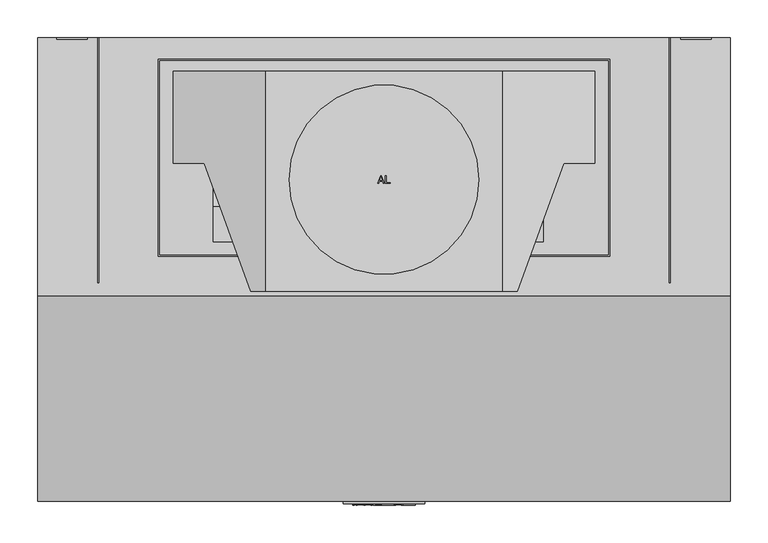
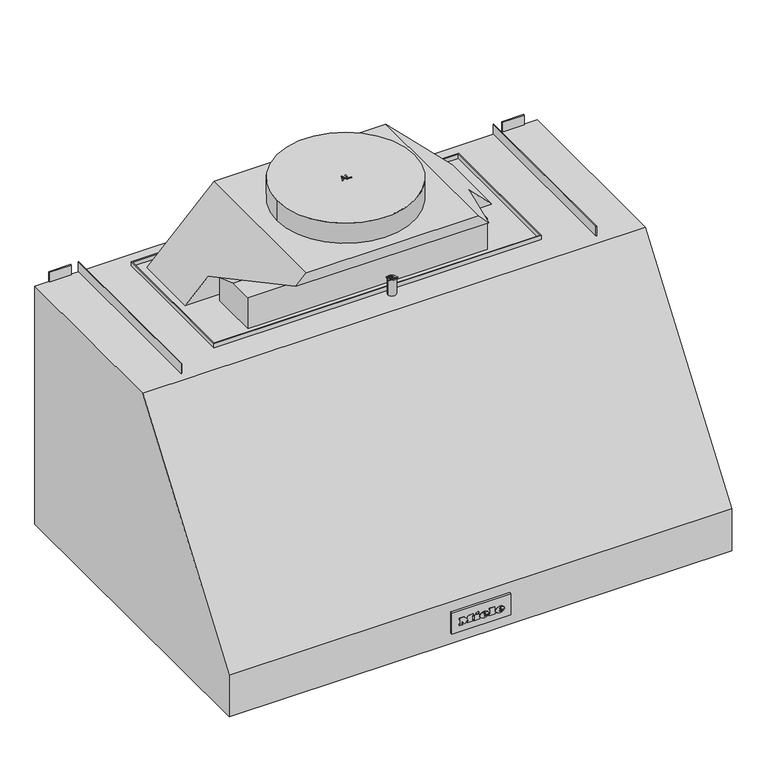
"""IFC4 building model written with IfcOpenShell, lengths in millimetres: proxy geometry, 11898170_USA_DAR1230-3_EDST : 28123051_USA_11898170_DAR1230-3_EDST."""

from ifc_helpers import new_model, si_unit, point, frame, frame_2d, origin, origin_with_axes, place, context, project, spatial, polyline, circle_curve, ellipse_curve, trimmed, segment, composite_curve, outline, extrude, faceted_brep, source, transform, mapped, element, save
from ifc_brep_helpers import plane_surface, cylinder_surface, revolved_surface, extruded_surface, advanced_brep


def specialty_equipment_fada4b7b(model_context):
    return source(origin(), model_context, "Body", "SolidModel", [
        extrude(outline(composite_curve([segment(trimmed(circle_curve(frame_2d((0.0, -510.0)), 27.5), [point((27.5, -510.0))], [point((-27.5, -510.0))], False, "CARTESIAN"), True, "CONTINUOUS"), segment(trimmed(circle_curve(frame_2d((0.0, -510.0)), 27.5), [point((-27.5, -510.0))], [point((27.5, -510.0))], False, "CARTESIAN"), True, "CONTINUOUS")], self_intersect=False)), origin_with_axes(), (0.0, 0.0, 1.0), 2.0),
        extrude(outline(composite_curve([segment(trimmed(circle_curve(frame_2d((0.0, -510.0)), 28.5), [point((28.5, -510.0))], [point((-28.5, -510.0))], False, "CARTESIAN"), True, "CONTINUOUS"), segment(trimmed(circle_curve(frame_2d((0.0, -510.0)), 28.5), [point((-28.5, -510.0))], [point((28.5, -510.0))], False, "CARTESIAN"), True, "CONTINUOUS")], self_intersect=False), holes=[composite_curve([segment(trimmed(circle_curve(frame_2d((0.0, -510.0)), 27.5), [point((27.5, -510.0))], [point((-27.5, -510.0))], True, "CARTESIAN"), True, "CONTINUOUS"), segment(trimmed(circle_curve(frame_2d((0.0, -510.0)), 27.5), [point((-27.5, -510.0))], [point((27.5, -510.0))], True, "CARTESIAN"), True, "CONTINUOUS")], self_intersect=False)]), origin_with_axes(), (0.0, 0.0, 1.0), 2.0),
        extrude(outline(composite_curve([segment(trimmed(circle_curve(frame_2d((-297.5, -510.0)), 27.5), [point((-270.0, -510.0))], [point((-325.0, -510.0))], False, "CARTESIAN"), True, "CONTINUOUS"), segment(trimmed(circle_curve(frame_2d((-297.5, -510.0)), 27.5), [point((-325.0, -510.0))], [point((-270.0, -510.0))], False, "CARTESIAN"), True, "CONTINUOUS")], self_intersect=False)), origin_with_axes(), (0.0, 0.0, 1.0), 2.0),
        extrude(outline(composite_curve([segment(trimmed(circle_curve(frame_2d((297.5, -510.0)), 27.5), [point((325.0, -510.0))], [point((270.0, -510.0))], False, "CARTESIAN"), True, "CONTINUOUS"), segment(trimmed(circle_curve(frame_2d((297.5, -510.0)), 27.5), [point((270.0, -510.0))], [point((325.0, -510.0))], False, "CARTESIAN"), True, "CONTINUOUS")], self_intersect=False)), origin_with_axes(), (0.0, 0.0, 1.0), 2.0),
        extrude(outline(composite_curve([segment(trimmed(circle_curve(frame_2d((-297.5, -510.0)), 28.5), [point((-269.0, -510.0))], [point((-326.0, -510.0))], False, "CARTESIAN"), True, "CONTINUOUS"), segment(trimmed(circle_curve(frame_2d((-297.5, -510.0)), 28.5), [point((-326.0, -510.0))], [point((-269.0, -510.0))], False, "CARTESIAN"), True, "CONTINUOUS")], self_intersect=False), holes=[composite_curve([segment(trimmed(circle_curve(frame_2d((-297.5, -510.0)), 27.5), [point((-270.0, -510.0))], [point((-325.0, -510.0))], True, "CARTESIAN"), True, "CONTINUOUS"), segment(trimmed(circle_curve(frame_2d((-297.5, -510.0)), 27.5), [point((-325.0, -510.0))], [point((-270.0, -510.0))], True, "CARTESIAN"), True, "CONTINUOUS")], self_intersect=False)]), origin_with_axes(), (0.0, 0.0, 1.0), 2.0),
        extrude(outline(composite_curve([segment(trimmed(circle_curve(frame_2d((297.5, -510.0)), 28.5), [point((326.0, -510.0))], [point((269.0, -510.0))], False, "CARTESIAN"), True, "CONTINUOUS"), segment(trimmed(circle_curve(frame_2d((297.5, -510.0)), 28.5), [point((269.0, -510.0))], [point((326.0, -510.0))], False, "CARTESIAN"), True, "CONTINUOUS")], self_intersect=False), holes=[composite_curve([segment(trimmed(circle_curve(frame_2d((297.5, -510.0)), 27.5), [point((325.0, -510.0))], [point((270.0, -510.0))], True, "CARTESIAN"), True, "CONTINUOUS"), segment(trimmed(circle_curve(frame_2d((297.5, -510.0)), 27.5), [point((270.0, -510.0))], [point((325.0, -510.0))], True, "CARTESIAN"), True, "CONTINUOUS")], self_intersect=False)]), origin_with_axes(), (0.0, 0.0, 1.0), 2.0),
        extrude(outline(polyline([(-37.5, 0.0), (0.0, 0.0), (0.0, -344.0), (-37.5, -344.0), (-37.5, 0.0)])), frame((162.0, -320.2688445, 250.4179055), z_axis=(0.0, 0.6427876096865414, 0.7660444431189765), x_axis=(-1.0, 0.0, 0.0)), (0.0, 0.0, 1.0), 25.0),
        extrude(outline(polyline([(-87.0, 0.0), (-49.5, 0.0), (-49.5, -344.0), (-87.0, -344.0), (-87.0, 0.0)])), frame((162.0, -320.2688445, 250.4179055), z_axis=(0.0, 0.6427876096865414, 0.7660444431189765), x_axis=(-1.0, 0.0, 0.0)), (0.0, 0.0, 1.0), 25.0),
        extrude(outline(polyline([(-136.5, 0.0), (-99.0, 0.0), (-99.0, -344.0), (-136.5, -344.0), (-136.5, 0.0)])), frame((162.0, -320.2688445, 250.4179055), z_axis=(0.0, 0.6427876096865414, 0.7660444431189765), x_axis=(-1.0, 0.0, 0.0)), (0.0, 0.0, 1.0), 25.0),
        extrude(outline(polyline([(-186.0, 0.0), (-148.5, 0.0), (-148.5, -344.0), (-186.0, -344.0), (-186.0, 0.0)])), frame((162.0, -320.2688445, 250.4179055), z_axis=(0.0, 0.6427876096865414, 0.7660444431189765), x_axis=(-1.0, 0.0, 0.0)), (0.0, 0.0, 1.0), 25.0),
        extrude(outline(polyline([(0.0, 0.0), (37.5, 0.0), (37.5, -344.0), (0.0, -344.0), (0.0, 0.0)])), frame((-350.0, -56.7495561, 29.2989677), z_axis=(0.0, 0.6427876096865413, 0.7660444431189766), x_axis=(1.0, 0.0, 0.0)), (0.0, 0.0, 1.0), 25.0),
        extrude(outline(polyline([(87.0, -344.0), (49.5, -344.0), (49.5, 0.0), (87.0, 0.0), (87.0, -344.0)])), frame((-350.0, -56.7495561, 29.2989677), z_axis=(0.0, 0.6427876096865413, 0.7660444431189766), x_axis=(1.0, 0.0, 0.0)), (0.0, 0.0, 1.0), 25.0),
        extrude(outline(polyline([(136.5, -344.0), (99.0, -344.0), (99.0, 0.0), (136.5, 0.0), (136.5, -344.0)])), frame((-350.0, -56.7495561, 29.2989677), z_axis=(0.0, 0.6427876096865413, 0.7660444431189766), x_axis=(1.0, 0.0, 0.0)), (0.0, 0.0, 1.0), 25.0),
        extrude(outline(polyline([(186.0, -344.0), (148.5, -344.0), (148.5, 0.0), (186.0, 0.0), (186.0, -344.0)])), frame((-350.0, -56.7495561, 29.2989677), z_axis=(0.0, 0.6427876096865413, 0.7660444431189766), x_axis=(1.0, 0.0, 0.0)), (0.0, 0.0, 1.0), 25.0),
        extrude(outline(polyline([(256.0, 0.0), (293.5, 0.0), (293.5, -344.0), (256.0, -344.0), (256.0, 0.0)])), frame((-350.0, -56.7495561, 29.2989677), z_axis=(0.0, 0.6427876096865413, 0.7660444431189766), x_axis=(1.0, 0.0, 0.0)), (0.0, 0.0, 1.0), 25.0),
        extrude(outline(polyline([(343.0, -344.0), (305.5, -344.0), (305.5, 0.0), (343.0, 0.0), (343.0, -344.0)])), frame((-350.0, -56.7495561, 29.2989677), z_axis=(0.0, 0.6427876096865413, 0.7660444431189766), x_axis=(1.0, 0.0, 0.0)), (0.0, 0.0, 1.0), 25.0),
        extrude(outline(polyline([(392.5, -344.0), (355.0, -344.0), (355.0, 0.0), (392.5, 0.0), (392.5, -344.0)])), frame((-350.0, -56.7495561, 29.2989677), z_axis=(0.0, 0.6427876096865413, 0.7660444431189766), x_axis=(1.0, 0.0, 0.0)), (0.0, 0.0, 1.0), 25.0),
        extrude(outline(polyline([(442.0, -344.0), (404.5, -344.0), (404.5, 0.0), (442.0, 0.0), (442.0, -344.0)])), frame((-350.0, -56.7495561, 29.2989677), z_axis=(0.0, 0.6427876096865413, 0.7660444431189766), x_axis=(1.0, 0.0, 0.0)), (0.0, 0.0, 1.0), 25.0),
        extrude(outline(polyline([(256.0, 0.0), (256.0, -380.0), (0.0, -380.0), (0.0, 0.0), (256.0, 0.0)]), holes=[polyline([(238.0, -360.0), (238.0, -16.0), (18.0, -16.0), (18.0, -360.0), (238.0, -360.0)])]), frame((127.0, -44.492845, 19.014366), z_axis=(0.0, 0.6427876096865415, 0.7660444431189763), x_axis=(1.0, 0.0, 0.0)), (0.0, 0.0, 1.0), 25.0),
        extrude(outline(polyline([(0.0, -380.0), (0.0, 0.0), (256.0, 0.0), (256.0, -380.0), (0.0, -380.0)]), holes=[polyline([(18.0, -20.0), (18.0, -364.0000001), (238.0, -364.0000001), (238.0, -20.0), (18.0, -20.0)])]), frame((127.0, -335.5897334, 263.2736577), z_axis=(0.0, 0.6427876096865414, 0.7660444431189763), x_axis=(-1.0, 0.0, 0.0)), (0.0, 0.0, 1.0), 25.0),
        extrude(outline(polyline([(256.0, 0.0), (256.0, -380.0), (0.0, -380.0), (0.0, 0.0), (256.0, 0.0)]), holes=[polyline([(238.0, -359.904685), (238.0, -16.0), (18.0, -16.0), (18.0, -359.904685), (238.0, -359.904685)])]), frame((-385.0, -44.492845, 19.014366), z_axis=(0.0, 0.6427876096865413, 0.7660444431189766), x_axis=(1.0, 0.0, 0.0)), (0.0, 0.0, 1.0), 25.0),
        extrude(outline(polyline([(0.0, -32.0), (0.0, 0.0), (771.0, 0.0), (771.0, -32.0), (0.0, -32.0)])), frame((385.5, -54.2049091, 24.5529408), z_axis=(0.0, 0.6427876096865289, 0.7660444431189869), x_axis=(-1.0, 0.0, 0.0)), (0.0, 0.0, 1.0), 2.0),
        extrude(outline(composite_curve([segment(polyline([(-611.0, 60.5), (-611.0, 19.5), (-614.4897588, 19.5)]), True, "CONTINUOUS"), segment(trimmed(circle_curve(frame_2d((-407.0, 40.0)), 208.5), [point((-614.4897588, 19.5))], [point((-614.4897588, 60.5))], False, "CARTESIAN"), True, "CONTINUOUS"), segment(polyline([(-614.4897588, 60.5), (-611.0, 60.5)]), True, "CONTINUOUS")], self_intersect=False)), frame((-53.5, 0.0, 0.0), z_axis=(1.0, 0.0, 0.0), x_axis=(0.0, 1.0, 0.0)), (0.0, 0.0, 1.0), 107.0),
        extrude(outline(polyline([(-4.5372377, -181.9543211), (-3.4679056, -181.9543211), (0.5443291, -192.0074933), (-0.78117, -192.0074933), (-1.9464171, -188.8644809), (-6.0741019, -188.8644809), (-7.2153963, -192.0001615), (-8.5495657, -192.0001615), (-4.5372377, -181.9543211)]), holes=[polyline([(-5.6034113, -187.6023847), (-2.3954067, -187.6023847), (-4.0065067, -183.2149252), (-5.6034113, -187.6023847)])]), frame((0.0, 0.0, 619.0), z_axis=(0.0, 0.0, 1.0), x_axis=(1.0, 0.0, 0.0)), (0.0, 0.0, 1.0), 1.0),
        extrude(outline(polyline([(1.8811446, -192.000493), (1.8811446, -181.9526593), (3.1591519, -181.9526593), (3.1591519, -190.7381821), (8.1591519, -190.7381821), (8.1591519, -192.000493), (1.8811446, -192.000493)])), frame((0.0, 0.0, 619.0), z_axis=(0.0, 0.0, 1.0), x_axis=(1.0, 0.0, 0.0)), (0.0, 0.0, 1.0), 1.0),
        extrude(outline(polyline([(12.618401, -292.9519593), (19.854777, -292.9519593), (19.854777, -294.2111209), (13.8792364, -294.2111209), (13.8792364, -297.1924894), (19.5282155, -297.1924894), (19.5282155, -298.4490469), (13.881595, -298.4490469), (13.881595, -301.7405445), (20.0030995, -301.7405445), (20.0030995, -303.0025662), (12.618401, -303.0025662), (12.618401, -292.9519593)])), frame((0.0, 0.0, 487.0), z_axis=(0.0, 0.0, 1.0), x_axis=(1.0, 0.0, 0.0)), (0.0, 0.0, 1.0), 1.0),
        extrude(outline(polyline([(21.8808706, -303.001043), (21.8808706, -292.9502196), (23.1543386, -292.9502196), (23.1543386, -301.7343453), (28.1543386, -301.7343453), (28.1543386, -303.001043), (21.8808706, -303.001043)])), frame((0.0, 0.0, 487.0), z_axis=(0.0, 0.0, 1.0), x_axis=(1.0, 0.0, 0.0)), (0.0, 0.0, 1.0), 1.0),
        extrude(outline(composite_curve([segment(trimmed(circle_curve(frame_2d((20.0, -298.0)), 7.5), [point((27.5, -298.0))], [point((12.5, -298.0))], False, "CARTESIAN"), True, "CONTINUOUS"), segment(trimmed(circle_curve(frame_2d((20.0, -298.0)), 7.5), [point((12.5, -298.0))], [point((27.5, -298.0))], False, "CARTESIAN"), True, "CONTINUOUS")], self_intersect=False)), frame((0.0, 0.0, 457.0), z_axis=(0.0, 0.0, 1.0), x_axis=(1.0, 0.0, 0.0)), (0.0, 0.0, 1.0), 30.0),
        advanced_brep(
        [(456.5, -340.0, 457.0), (456.5, -611.0, 80.0), (456.5, -611.0, 0.0), (456.5, 0.0, 0.0), (456.5, 0.0, 457.0), (-456.5, -340.0, 457.0), (-456.5, 0.0, 457.0), (-456.5, 0.0, 0.0), (-456.5, -611.0, 0.0), (-456.5, -611.0, 80.0), (395.5, -440.0, 0.0), (395.5, -28.0, 0.0), (-395.5, -28.0, 0.0), (-395.5, -440.0, 0.0), (217.0, -554.0, 0.0), (217.0, -466.0, 0.0), (81.0, -466.0, 0.0), (81.0, -554.0, 0.0), (-268.5, -510.0, 0.0), (-326.5, -510.0, 0.0), (326.5, -510.0, 0.0), (268.5, -510.0, 0.0), (29.0, -510.0, 0.0), (-29.0, -510.0, 0.0), (395.5, -440.0, 176.0), (395.5, -346.5798495, 321.3202342), (395.5, -28.0, 54.0), (-395.5, -28.0, 54.0), (-395.5, -346.5798495, 321.3202342), (-395.5, -440.0, 176.0), (217.0, -528.8270111, 30.0), (217.0, -521.4256258, 32.0), (81.0, -528.8270111, 30.0), (81.0, -521.4256258, 32.0), (-268.5, -510.0, 5.0), (-326.5, -510.0, 5.0), (326.5, -510.0, 5.0), (268.5, -510.0, 5.0), (29.0, -510.0, 5.0), (-29.0, -510.0, 5.0)],
        [
            (0, 1),
            (1, 2),
            (2, 3),
            (3, 4),
            (4, 0),
            (5, 6),
            (6, 7),
            (7, 8),
            (8, 9),
            (9, 5),
            (1, 9),
            (8, 2),
            (7, 3),
            (10, 11),
            (11, 12),
            (12, 13),
            (13, 10),
            (14, 15),
            (15, 16),
            (16, 17),
            (17, 14),
            (18, 19, circle_curve(frame((-297.5, -510.0, 0.0), z_axis=(0.0, 0.0, 1.0), x_axis=(-1.0, 0.0, 0.0)), 29.0)),
            (19, 18, circle_curve(frame((-297.5, -510.0, 0.0), z_axis=(0.0, 0.0, 1.0), x_axis=(-1.0, 0.0, 0.0)), 29.0)),
            (20, 21, circle_curve(frame((297.5, -510.0, 0.0), z_axis=(0.0, 0.0, 1.0), x_axis=(-1.0, 0.0, 0.0)), 29.0)),
            (21, 20, circle_curve(frame((297.5, -510.0, 0.0), z_axis=(0.0, 0.0, 1.0), x_axis=(-1.0, 0.0, 0.0)), 29.0)),
            (22, 23, circle_curve(frame((0.0, -510.0, 0.0), z_axis=(0.0, 0.0, 1.0), x_axis=(-1.0, 0.0, 0.0)), 29.0)),
            (23, 22, circle_curve(frame((0.0, -510.0, 0.0), z_axis=(0.0, 0.0, 1.0), x_axis=(-1.0, 0.0, 0.0)), 29.0)),
            (6, 4),
            (5, 0),
            (10, 24),
            (24, 25),
            (25, 26),
            (26, 11),
            (12, 27),
            (27, 28),
            (28, 29),
            (29, 13),
            (26, 27),
            (30, 31, circle_curve(frame((217.0, -523.6917155, 25.6909754), z_axis=(-1.0, 0.0, 0.0), x_axis=(0.0, -1.0, 0.0)), 6.7036523)),
            (31, 15),
            (14, 30),
            (32, 17),
            (16, 33),
            (33, 32, circle_curve(frame((81.0, -523.6917155, 25.6909754), z_axis=(1.0, 0.0, 0.0), x_axis=(0.0, -1.0, 0.0)), 6.7036523)),
            (32, 30),
            (31, 33),
            (24, 29),
            (28, 25),
            (34, 35, circle_curve(frame((-297.5, -510.0, 5.0), z_axis=(0.0, 0.0, -1.0), x_axis=(-1.0, 0.0, 0.0)), 29.0)),
            (35, 34, circle_curve(frame((-297.5, -510.0, 5.0), z_axis=(0.0, 0.0, -1.0), x_axis=(-1.0, 0.0, 0.0)), 29.0)),
            (36, 37, circle_curve(frame((297.5, -510.0, 5.0), z_axis=(0.0, 0.0, -1.0), x_axis=(-1.0, 0.0, 0.0)), 29.0)),
            (37, 36, circle_curve(frame((297.5, -510.0, 5.0), z_axis=(0.0, 0.0, -1.0), x_axis=(-1.0, 0.0, 0.0)), 29.0)),
            (35, 19),
            (18, 34),
            (37, 21),
            (20, 36),
            (38, 39, circle_curve(frame((0.0, -510.0, 5.0), z_axis=(0.0, 0.0, -1.0), x_axis=(-1.0, 0.0, 0.0)), 29.0)),
            (39, 38, circle_curve(frame((0.0, -510.0, 5.0), z_axis=(0.0, 0.0, -1.0), x_axis=(-1.0, 0.0, 0.0)), 29.0)),
            (39, 23),
            (22, 38),
        ],
        [
            plane_surface(frame((456.5, -611.0, 80.0), z_axis=(1.0, 0.0, 0.0), x_axis=(0.0, -0.5836804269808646, -0.8119834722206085))),
            plane_surface(frame((-456.5, -611.0, 80.0), z_axis=(-1.0, 0.0, 0.0), x_axis=(0.0, 0.5836804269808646, 0.8119834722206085))),
            plane_surface(frame((456.5, -611.0, 80.0), z_axis=(0.0, -1.0, 0.0), x_axis=(-1.0, 0.0, 0.0))),
            plane_surface(frame((456.5, -611.0, 0.0), z_axis=(0.0, 0.0, -1.0), x_axis=(-1.0, 0.0, 0.0))),
            plane_surface(frame((456.5, 0.0, 0.0), z_axis=(0.0, 1.0, 0.0), x_axis=(-1.0, 0.0, 0.0))),
            plane_surface(frame((456.5, 0.0, 457.0), z_axis=(0.0, 0.0, 1.0), x_axis=(-1.0, 0.0, 0.0))),
            plane_surface(frame((456.5, -340.0, 457.0), z_axis=(0.0, -0.8119834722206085, 0.5836804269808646), x_axis=(-1.0, 0.0, 0.0))),
            plane_surface(frame((395.5, -440.0, 0.0), z_axis=(-1.0, 0.0, 0.0), x_axis=(0.0, 1.0, 0.0))),
            plane_surface(frame((-395.5, -440.0, 0.0), z_axis=(1.0, 0.0, 0.0), x_axis=(0.0, -1.0, 0.0))),
            plane_surface(frame((-395.5, -28.0, 54.0), z_axis=(0.0, -1.0, 0.0), x_axis=(1.0, 0.0, 0.0))),
            plane_surface(frame((217.0, -530.3953678, 25.6909754), z_axis=(-1.0, 0.0, 0.0), x_axis=(0.0, 0.0, -1.0))),
            plane_surface(frame((81.0, -530.3953678, 25.6909754), z_axis=(1.0, 0.0, 0.0), x_axis=(0.0, 0.0, 1.0))),
            plane_surface(frame((81.0, -554.0, 0.0), z_axis=(0.0, 0.7660444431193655, -0.6427876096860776), x_axis=(1.0, 0.0, 0.0))),
            plane_surface(frame((81.0, -521.4256258, 32.0), z_axis=(0.0, -0.5000000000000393, -0.8660254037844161), x_axis=(1.0, 0.0, 0.0))),
            plane_surface(frame((-395.5, -440.0, 176.0), z_axis=(0.0, 0.8411784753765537, -0.5407575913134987), x_axis=(1.0, 0.0, 0.0))),
            plane_surface(frame((-395.5, -440.0, 0.0), z_axis=(0.0, 1.0, 0.0), x_axis=(1.0, 0.0, 0.0))),
            revolved_surface(polyline([(81.0, -530.3953678, 25.6909754), (217.0, -530.3953678, 25.6909754)]), (217.0, -523.6917155, 25.6909754), (-1.0, 0.0, 0.0)),
            plane_surface(frame((-395.5, -346.5798495, 321.3202342), z_axis=(0.0, -0.642787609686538, -0.7660444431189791), x_axis=(1.0, 0.0, 0.0))),
            plane_surface(frame((-326.5, -510.0, 5.0), z_axis=(0.0, 0.0, -1.0), x_axis=(0.0, -1.0, 0.0))),
            revolved_surface(polyline([(-326.5, -510.0, 5.0), (-326.5, -510.0, 0.0)]), (-297.5, -510.0, 0.0), (0.0, 0.0, 1.0)),
            revolved_surface(polyline([(268.5, -510.0, 5.0), (268.5, -510.0, 0.0)]), (297.5, -510.0, 0.0), (0.0, 0.0, 1.0)),
            plane_surface(frame((-29.0, -510.0, 5.0), z_axis=(0.0, 0.0, -1.0), x_axis=(0.0, -1.0, 0.0))),
            revolved_surface(polyline([(-29.0, -510.0, 5.0), (-29.0, -510.0, 0.0)]), (0.0, -510.0, 0.0), (0.0, 0.0, 1.0)),
        ],
        [
            (0, [[1, 2, 3, 4, 5]]),
            (1, [[6, 7, 8, 9, 10]]),
            (2, [[-2, 11, -9, 12]]),
            (3, [[-3, -12, -8, 13], [14, 15, 16, 17], [18, 19, 20, 21], [22, 23], [24, 25], [26, 27]]),
            (4, [[-4, -13, -7, 28]]),
            (5, [[-5, -28, -6, 29]]),
            (6, [[-1, -29, -10, -11]]),
            (7, [[30, 31, 32, 33, -14]]),
            (8, [[34, 35, 36, 37, -16]]),
            (9, [[-33, 38, -34, -15]]),
            (10, [[39, 40, -18, 41]]),
            (11, [[42, -20, 43, 44]]),
            (12, [[-41, -21, -42, 45]]),
            (13, [[-40, 46, -43, -19]]),
            (14, [[-31, 47, -36, 48]]),
            (15, [[-30, -17, -37, -47]]),
            (16, [[-39, -45, -44, -46]]),
            (17, [[-32, -48, -35, -38]]),
            (18, [[49, 50]]),
            (18, [[51, 52]]),
            (19, [[-50, 53, -22, 54]]),
            (19, [[-49, -54, -23, -53]]),
            (20, [[-52, 55, -24, 56]]),
            (20, [[-51, -56, -25, -55]]),
            (21, [[57, 58]]),
            (22, [[-58, 59, -26, 60]]),
            (22, [[-57, -60, -27, -59]]),
        ],
    ),
        extrude(outline(polyline([(-391.5, 0.0), (-391.5, -2.0), (-431.5, -2.0), (-431.5, 0.0), (-391.5, 0.0)])), frame((0.0, 0.0, 457.0), z_axis=(0.0, 0.0, 1.0), x_axis=(1.0, 0.0, 0.0)), (0.0, 0.0, 1.0), 19.0),
        extrude(outline(polyline([(391.5, 0.0), (431.5, 0.0), (431.5, -2.0), (391.5, -2.0), (391.5, 0.0)])), frame((0.0, 0.0, 457.0), z_axis=(0.0, 0.0, 1.0), x_axis=(1.0, 0.0, 0.0)), (0.0, 0.0, 1.0), 19.0),
        extrude(outline(polyline([(-376.5, 0.0), (-376.5, -323.0), (-377.5, -323.0), (-377.5, 0.0), (-376.5, 0.0)])), frame((0.0, 0.0, 457.0), z_axis=(0.0, 0.0, 1.0), x_axis=(1.0, 0.0, 0.0)), (0.0, 0.0, 1.0), 19.0),
        extrude(outline(polyline([(376.5, 0.0), (377.5, 0.0), (377.5, -323.0), (376.5, -323.0), (376.5, 0.0)])), frame((0.0, 0.0, 457.0), z_axis=(0.0, 0.0, 1.0), x_axis=(1.0, 0.0, 0.0)), (0.0, 0.0, 1.0), 19.0),
        extrude(outline(polyline([(297.5, -28.0), (297.5, -288.0), (-297.5, -288.0), (-297.5, -28.0), (297.5, -28.0)]), holes=[polyline([(295.5, -30.0), (-295.5, -30.0), (-295.5, -286.0), (295.5, -286.0), (295.5, -30.0)])]), frame((0.0, 0.0, 457.0), z_axis=(0.0, 0.0, 1.0), x_axis=(1.0, 0.0, 0.0)), (0.0, 0.0, 1.0), 8.0),
        faceted_brep([(156.0, -44.0, 580.0), (-156.0, -44.0, 580.0), (-156.0, -334.0, 580.0), (156.0, -334.0, 580.0), (-279.0, -44.0, 457.0), (279.0, -44.0, 457.0), (279.0, -165.0, 457.0), (-279.0, -165.0, 457.0), (-175.4890304, -334.0, 560.5109696), (175.4890304, -334.0, 560.5109696), (-237.0, -165.0, 499.0), (237.0, -165.0, 499.0)], [[[0, 1, 2, 3]], [[4, 5, 6, 7]], [[5, 4, 1, 0]], [[3, 2, 8, 9]], [[9, 8, 10, 11]], [[7, 6, 11, 10]], [[2, 1, 4, 7, 10, 8]], [[0, 3, 9, 11, 6, 5]]]),
        extrude(outline(polyline([(-181.0, 457.0), (-269.0, 457.0), (-269.0, 517.0), (-223.0, 517.0), (-181.0, 501.7132502), (-181.0, 457.0)])), frame((-225.0, 0.0, 0.0), z_axis=(1.0, 0.0, 0.0), x_axis=(0.0, 1.0, 0.0)), (0.0, 0.0, 1.0), 435.0),
        extrude(outline(composite_curve([segment(trimmed(circle_curve(frame_2d((0.0, -187.0)), 125.0), [point((125.0, -187.0))], [point((-125.0, -187.0))], False, "CARTESIAN"), True, "CONTINUOUS"), segment(trimmed(circle_curve(frame_2d((0.0, -187.0)), 125.0), [point((-125.0, -187.0))], [point((125.0, -187.0))], False, "CARTESIAN"), True, "CONTINUOUS")], self_intersect=False)), frame((0.0, 0.0, 580.0), z_axis=(0.0, 0.0, 1.0), x_axis=(1.0, 0.0, 0.0)), (0.0, 0.0, 1.0), 39.0),
        extrude(outline(polyline([(-365.0027283, 292.6624227), (-346.5798495, 321.3202342), (-314.6821741, 294.5549065), (-339.9408614, 271.6330194), (-365.0027283, 292.6624227)])), frame((-385.5, 0.0, 0.0), z_axis=(1.0, 0.0, 0.0), x_axis=(0.0, 1.0, 0.0)), (0.0, 0.0, 1.0), 771.0),
        extrude(outline(polyline([(-28.0, 10.0), (-364.9541024, 292.738063), (-346.5798495, 321.3202342), (-28.0, 54.0), (-28.0, 10.0)])), frame((385.5, 0.0, 0.0), z_axis=(1.0, 0.0, 0.0), x_axis=(0.0, 1.0, 0.0)), (0.0, 0.0, 1.0), 10.0),
        extrude(outline(polyline([(-346.5798495, 321.3202342), (-28.0, 54.0), (-28.0, 10.0), (-364.9541024, 292.738063), (-346.5798495, 321.3202342)])), frame((-395.5, 0.0, 0.0), z_axis=(1.0, 0.0, 0.0), x_axis=(0.0, 1.0, 0.0)), (0.0, 0.0, 1.0), 10.0),
        extrude(outline(composite_curve([segment(polyline([(-37.1483512, 0.0), (0.0, 0.0)]), True, "CONTINUOUS"), segment(trimmed(circle_curve(frame_2d((-18.5741756, -4.0)), 19.0), [point((0.0, 0.0))], [point((0.4258244, -4.0))], False, "CARTESIAN"), True, "CONTINUOUS"), segment(trimmed(circle_curve(frame_2d((-18.5741756, -4.0)), 19.0), [point((0.4258244, -4.0))], [point((0.0, -8.0))], False, "CARTESIAN"), True, "CONTINUOUS"), segment(polyline([(0.0, -8.0), (-37.1483512, -8.0)]), True, "CONTINUOUS"), segment(trimmed(circle_curve(frame_2d((-18.5741756, -4.0)), 19.0), [point((-37.1483512, -8.0))], [point((-37.5741756, -4.0))], False, "CARTESIAN"), True, "CONTINUOUS"), segment(trimmed(circle_curve(frame_2d((-18.5741756, -4.0)), 19.0), [point((-37.5741756, -4.0))], [point((-37.1483512, 0.0))], False, "CARTESIAN"), True, "CONTINUOUS")], self_intersect=False)), frame((110.0000858, -493.7462424, -8.2819697), z_axis=(0.0, 0.4999999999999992, 0.8660254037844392), x_axis=(0.0, 0.8660254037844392, -0.4999999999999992)), (0.0, 0.0, 1.0), 13.0),
        extrude(outline(composite_curve([segment(polyline([(0.2191566, -77.9999142), (-36.9291946, -77.9999142)]), True, "CONTINUOUS"), segment(trimmed(circle_curve(frame_2d((-18.3550191, -73.9999142)), 19.0), [point((-36.9291946, -77.9999142))], [point((-37.355019, -73.9999142))], False, "CARTESIAN"), True, "CONTINUOUS"), segment(trimmed(circle_curve(frame_2d((-18.3550191, -73.9999142)), 19.0), [point((-37.355019, -73.9999142))], [point((-36.9291946, -69.9999142))], False, "CARTESIAN"), True, "CONTINUOUS"), segment(polyline([(-36.9291946, -69.9999142), (0.2191566, -69.9999142)]), True, "CONTINUOUS"), segment(trimmed(circle_curve(frame_2d((-18.3550191, -73.9999142)), 19.0), [point((0.2191566, -69.9999142))], [point((0.644981, -73.9999142))], False, "CARTESIAN"), True, "CONTINUOUS"), segment(trimmed(circle_curve(frame_2d((-18.3550191, -73.9999142)), 19.0), [point((0.644981, -73.9999142))], [point((0.2191566, -77.9999142))], False, "CARTESIAN"), True, "CONTINUOUS")], self_intersect=False)), frame((110.0000858, -493.7462424, -8.2819697), z_axis=(0.0, 0.4999999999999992, 0.8660254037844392), x_axis=(0.0, 0.8660254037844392, -0.4999999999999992)), (0.0, 0.0, 1.0), 13.0),
        extrude(outline(composite_curve([segment(trimmed(circle_curve(frame_2d((0.0, -19.0)), 19.0), [point((0.0, -38.0))], [point((0.0, 0.0))], False, "CARTESIAN"), True, "CONTINUOUS"), segment(trimmed(circle_curve(frame_2d((0.0, -19.0)), 19.0), [point((0.0, 0.0))], [point((0.0, -38.0))], False, "CARTESIAN"), True, "CONTINUOUS")], self_intersect=False)), frame((114.0000858, -519.786433, 21.7634484), z_axis=(0.0, 0.4999999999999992, 0.8660254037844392), x_axis=(-1.0, 0.0, 0.0)), (0.0, 0.0, 1.0), 8.0),
        extrude(outline(composite_curve([segment(trimmed(circle_curve(frame_2d((-69.9999142, -19.2191566)), 19.0), [point((-69.9999142, -38.2191566))], [point((-69.9999142, -0.2191566))], False, "CARTESIAN"), True, "CONTINUOUS"), segment(trimmed(circle_curve(frame_2d((-69.9999142, -19.2191566)), 19.0), [point((-69.9999142, -0.2191566))], [point((-69.9999142, -38.2191566))], False, "CARTESIAN"), True, "CONTINUOUS")], self_intersect=False)), frame((114.0000858, -519.786433, 21.7634484), z_axis=(0.0, 0.4999999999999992, 0.8660254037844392), x_axis=(-1.0, 0.0, 0.0)), (0.0, 0.0, 1.0), 8.0),
        advanced_brep(
        [(32.17, -616.0, 36.1995), (32.17, -616.0, 37.563), (41.2015, -616.0, 37.563), (25.4875, -616.0, 37.563), (29.2, -616.0, 33.0), (40.972, -616.0, 36.1995), (36.895, -616.0, 36.1995), (33.682, -616.0, 34.6875), (32.17, -616.0, 39.291), (32.17, -616.0, 40.7625), (34.4785, -616.0, 40.7625), (34.4785, -616.0, 39.291), (32.17, -615.0, 36.1995), (33.682, -615.0, 34.6875), (36.895, -615.0, 36.1995), (40.972, -615.0, 36.1995), (29.2, -615.0, 33.0), (25.4875, -615.0, 37.563), (41.2015, -615.0, 37.563), (32.17, -615.0, 37.563), (32.17, -615.0, 39.291), (34.4785, -615.0, 39.291), (34.4785, -615.0, 40.7625), (32.17, -615.0, 40.7625)],
        [
            (0, 1),
            (1, 2),
            (2, 3, ellipse_curve(frame((33.3445, -616.0, 37.563), z_axis=(0.0, -1.0, 0.0), x_axis=(-1.0, 0.0, 0.0)), 7.857, 6.4935)),
            (3, 4, circle_curve(frame((30.7120736, -616.0, 38.022), z_axis=(0.0, -1.0, 0.0), x_axis=(0.0, 0.0, -1.0)), 5.2446974)),
            (4, 5, circle_curve(frame((33.1872142, -616.0, 41.586), z_axis=(0.0, -1.0, 0.0), x_axis=(0.0, 0.0, -1.0)), 9.46664)),
            (5, 6),
            (6, 7, circle_curve(frame((34.3419118, -616.0, 37.455), z_axis=(0.0, 1.0, 0.0), x_axis=(0.0, 0.0, -1.0)), 2.8450905)),
            (7, 0, circle_curve(frame((33.682, -616.0, 36.1995), z_axis=(0.0, 1.0, 0.0), x_axis=(0.0, 0.0, -1.0)), 1.512)),
            (8, 9),
            (9, 10, circle_curve(frame((33.32425, -616.0, 40.7625), z_axis=(0.0, 1.0, 0.0), x_axis=(0.0, 0.0, -1.0)), 1.15425)),
            (10, 11),
            (11, 8),
            (12, 13, circle_curve(frame((33.682, -615.0, 36.1995), z_axis=(0.0, -1.0, 0.0), x_axis=(0.0, 0.0, -1.0)), 1.512)),
            (13, 14, circle_curve(frame((34.3419118, -615.0, 37.455), z_axis=(0.0, -1.0, 0.0), x_axis=(0.0, 0.0, -1.0)), 2.8450905)),
            (14, 15),
            (15, 16, circle_curve(frame((33.1872142, -615.0, 41.586), z_axis=(0.0, 1.0, 0.0), x_axis=(0.0, 0.0, -1.0)), 9.46664)),
            (16, 17, circle_curve(frame((30.7120736, -615.0, 38.022), z_axis=(0.0, 1.0, 0.0), x_axis=(0.0, 0.0, -1.0)), 5.2446974)),
            (17, 18, ellipse_curve(frame((33.3445, -615.0, 37.563), z_axis=(0.0, 1.0, 0.0), x_axis=(-1.0, 0.0, 0.0)), 7.857, 6.4935)),
            (18, 19),
            (19, 12),
            (20, 21),
            (21, 22),
            (22, 23, circle_curve(frame((33.32425, -615.0, 40.7625), z_axis=(0.0, -1.0, 0.0), x_axis=(0.0, 0.0, -1.0)), 1.15425)),
            (23, 20),
            (0, 12),
            (19, 1),
            (18, 2),
            (5, 15),
            (14, 6),
            (17, 3),
            (13, 7),
            (16, 4),
            (8, 20),
            (23, 9),
            (22, 10),
            (21, 11),
        ],
        [
            plane_surface(frame((32.17, -616.0, 37.563), z_axis=(0.0, -1.0, 0.0), x_axis=(0.0, 0.0, 1.0))),
            plane_surface(frame((32.17, -615.0, 37.563), z_axis=(0.0, 1.0, 0.0), x_axis=(0.0, 0.0, -1.0))),
            plane_surface(frame((32.17, -616.0, 36.1995), z_axis=(1.0, 0.0, 0.0), x_axis=(0.0, 1.0, 0.0))),
            plane_surface(frame((32.17, -616.0, 37.563), z_axis=(0.0, 0.0, -1.0), x_axis=(0.0, 1.0, 0.0))),
            plane_surface(frame((40.972, -616.0, 36.1995), z_axis=(0.0, 0.0, 1.0), x_axis=(0.0, 1.0, 0.0))),
            extruded_surface(trimmed(ellipse_curve(frame((33.3445, -614.0, 37.563), z_axis=(0.0, -1.0, 0.0), x_axis=(-1.0, 0.0, 0.0)), 7.857, 6.4935), [point((41.2015, -614.0, 37.563))], [point((25.4875, -614.0, 37.563))], True, "CARTESIAN"), (0.0, -1.0, 0.0), 1.0),
            revolved_surface(polyline([(34.3419118, -615.0, 34.6099095), (34.3419118, -616.0, 34.6099095)]), (34.3419118, -615.0, 37.455), (0.0, 1.0, 0.0)),
            revolved_surface(polyline([(33.682, -615.0, 34.6875), (33.682, -616.0, 34.6875)]), (33.682, -615.0, 36.1995), (0.0, 1.0, 0.0)),
            cylinder_surface(frame((30.7120736, -615.0, 38.022), z_axis=(0.0, -1.0, 0.0), x_axis=(0.0, 0.0, -1.0)), 5.2446974),
            cylinder_surface(frame((33.1872142, -615.0, 41.586), z_axis=(0.0, -1.0, 0.0), x_axis=(0.0, 0.0, -1.0)), 9.46664),
            plane_surface(frame((32.17, -616.0, 39.291), z_axis=(1.0, 0.0, 0.0), x_axis=(0.0, 1.0, 0.0))),
            revolved_surface(polyline([(33.32425, -615.0, 39.608250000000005), (33.32425, -616.0, 39.608250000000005)]), (33.32425, -615.0, 40.7625), (0.0, 1.0, 0.0)),
            plane_surface(frame((34.4785, -616.0, 40.7625), z_axis=(-1.0, 0.0, 0.0), x_axis=(0.0, 1.0, 0.0))),
            plane_surface(frame((34.4785, -616.0, 39.291), z_axis=(0.0, 0.0, 1.0), x_axis=(0.0, 1.0, 0.0))),
        ],
        [
            (0, [[1, 2, 3, 4, 5, 6, 7, 8], [9, 10, 11, 12]]),
            (1, [[13, 14, 15, 16, 17, 18, 19, 20], [21, 22, 23, 24]]),
            (2, [[-1, 25, -20, 26]]),
            (3, [[-2, -26, -19, 27]]),
            (4, [[-6, 28, -15, 29]]),
            (5, [[-3, -27, -18, 30]]),
            (6, [[-7, -29, -14, 31]]),
            (7, [[-8, -31, -13, -25]]),
            (8, [[-4, -30, -17, 32]]),
            (9, [[-5, -32, -16, -28]]),
            (10, [[-9, 33, -24, 34]]),
            (11, [[-10, -34, -23, 35]]),
            (12, [[-11, -35, -22, 36]]),
            (13, [[-12, -36, -21, -33]]),
        ],
    ),
        advanced_brep(
        [(3.9955, -616.0, 36.1995), (3.9955, -616.0, 37.563), (13.027, -616.0, 37.563), (-2.687, -616.0, 37.563), (1.0255, -616.0, 33.0), (12.7975, -616.0, 36.1995), (8.7205, -616.0, 36.1995), (5.5075, -616.0, 34.6875), (3.9955, -616.0, 39.291), (3.9955, -616.0, 40.7625), (6.304, -616.0, 40.7625), (6.304, -616.0, 39.291), (3.9955, -615.0, 36.1995), (5.5075, -615.0, 34.6875), (8.7205, -615.0, 36.1995), (12.7975, -615.0, 36.1995), (1.0255, -615.0, 33.0), (-2.687, -615.0, 37.563), (13.027, -615.0, 37.563), (3.9955, -615.0, 37.563), (3.9955, -615.0, 39.291), (6.304, -615.0, 39.291), (6.304, -615.0, 40.7625), (3.9955, -615.0, 40.7625)],
        [
            (0, 1),
            (1, 2),
            (2, 3, ellipse_curve(frame((5.17, -616.0, 37.563), z_axis=(0.0, -1.0, 0.0), x_axis=(-1.0, 0.0, 0.0)), 7.857, 6.4935)),
            (3, 4, circle_curve(frame((2.5375736, -616.0, 38.022), z_axis=(0.0, -1.0, 0.0), x_axis=(0.0, 0.0, -1.0)), 5.2446974)),
            (4, 5, circle_curve(frame((5.0127142, -616.0, 41.586), z_axis=(0.0, -1.0, 0.0), x_axis=(0.0, 0.0, -1.0)), 9.46664)),
            (5, 6),
            (6, 7, circle_curve(frame((6.1674118, -616.0, 37.455), z_axis=(0.0, 1.0, 0.0), x_axis=(0.0, 0.0, -1.0)), 2.8450905)),
            (7, 0, circle_curve(frame((5.5075, -616.0, 36.1995), z_axis=(0.0, 1.0, 0.0), x_axis=(0.0, 0.0, -1.0)), 1.512)),
            (8, 9),
            (9, 10, circle_curve(frame((5.14975, -616.0, 40.7625), z_axis=(0.0, 1.0, 0.0), x_axis=(0.0, 0.0, -1.0)), 1.15425)),
            (10, 11),
            (11, 8),
            (12, 13, circle_curve(frame((5.5075, -615.0, 36.1995), z_axis=(0.0, -1.0, 0.0), x_axis=(0.0, 0.0, -1.0)), 1.512)),
            (13, 14, circle_curve(frame((6.1674118, -615.0, 37.455), z_axis=(0.0, -1.0, 0.0), x_axis=(0.0, 0.0, -1.0)), 2.8450905)),
            (14, 15),
            (15, 16, circle_curve(frame((5.0127142, -615.0, 41.586), z_axis=(0.0, 1.0, 0.0), x_axis=(0.0, 0.0, -1.0)), 9.46664)),
            (16, 17, circle_curve(frame((2.5375736, -615.0, 38.022), z_axis=(0.0, 1.0, 0.0), x_axis=(0.0, 0.0, -1.0)), 5.2446974)),
            (17, 18, ellipse_curve(frame((5.17, -615.0, 37.563), z_axis=(0.0, 1.0, 0.0), x_axis=(-1.0, 0.0, 0.0)), 7.857, 6.4935)),
            (18, 19),
            (19, 12),
            (20, 21),
            (21, 22),
            (22, 23, circle_curve(frame((5.14975, -615.0, 40.7625), z_axis=(0.0, -1.0, 0.0), x_axis=(0.0, 0.0, -1.0)), 1.15425)),
            (23, 20),
            (0, 12),
            (19, 1),
            (18, 2),
            (5, 15),
            (14, 6),
            (17, 3),
            (13, 7),
            (16, 4),
            (8, 20),
            (23, 9),
            (22, 10),
            (21, 11),
        ],
        [
            plane_surface(frame((3.9955, -616.0, 37.563), z_axis=(0.0, -1.0, 0.0), x_axis=(0.0, 0.0, 1.0))),
            plane_surface(frame((3.9955, -615.0, 37.563), z_axis=(0.0, 1.0, 0.0), x_axis=(0.0, 0.0, -1.0))),
            plane_surface(frame((3.9955, -616.0, 36.1995), z_axis=(1.0, 0.0, 0.0), x_axis=(0.0, 1.0, 0.0))),
            plane_surface(frame((3.9955, -616.0, 37.563), z_axis=(0.0, 0.0, -1.0), x_axis=(0.0, 1.0, 0.0))),
            plane_surface(frame((12.7975, -616.0, 36.1995), z_axis=(0.0, 0.0, 1.0), x_axis=(0.0, 1.0, 0.0))),
            extruded_surface(trimmed(ellipse_curve(frame((5.17, -614.0, 37.563), z_axis=(0.0, -1.0, 0.0), x_axis=(-1.0, 0.0, 0.0)), 7.857, 6.4935), [point((13.027, -614.0, 37.563))], [point((-2.687, -614.0, 37.563))], True, "CARTESIAN"), (0.0, -1.0, 0.0), 1.0),
            revolved_surface(polyline([(6.1674118, -615.0, 34.6099095), (6.1674118, -616.0, 34.6099095)]), (6.1674118, -615.0, 37.455), (0.0, 1.0, 0.0)),
            revolved_surface(polyline([(5.5075, -615.0, 34.6875), (5.5075, -616.0, 34.6875)]), (5.5075, -615.0, 36.1995), (0.0, 1.0, 0.0)),
            cylinder_surface(frame((2.5375736, -615.0, 38.022), z_axis=(0.0, -1.0, 0.0), x_axis=(0.0, 0.0, -1.0)), 5.2446974),
            cylinder_surface(frame((5.0127142, -615.0, 41.586), z_axis=(0.0, -1.0, 0.0), x_axis=(0.0, 0.0, -1.0)), 9.46664),
            plane_surface(frame((3.9955, -616.0, 39.291), z_axis=(1.0, 0.0, 0.0), x_axis=(0.0, 1.0, 0.0))),
            revolved_surface(polyline([(5.14975, -615.0, 39.608250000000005), (5.14975, -616.0, 39.608250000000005)]), (5.14975, -615.0, 40.7625), (0.0, 1.0, 0.0)),
            plane_surface(frame((6.304, -616.0, 40.7625), z_axis=(-1.0, 0.0, 0.0), x_axis=(0.0, 1.0, 0.0))),
            plane_surface(frame((6.304, -616.0, 39.291), z_axis=(0.0, 0.0, 1.0), x_axis=(0.0, 1.0, 0.0))),
        ],
        [
            (0, [[1, 2, 3, 4, 5, 6, 7, 8], [9, 10, 11, 12]]),
            (1, [[13, 14, 15, 16, 17, 18, 19, 20], [21, 22, 23, 24]]),
            (2, [[-1, 25, -20, 26]]),
            (3, [[-2, -26, -19, 27]]),
            (4, [[-6, 28, -15, 29]]),
            (5, [[-3, -27, -18, 30]]),
            (6, [[-7, -29, -14, 31]]),
            (7, [[-8, -31, -13, -25]]),
            (8, [[-4, -30, -17, 32]]),
            (9, [[-5, -32, -16, -28]]),
            (10, [[-9, 33, -24, 34]]),
            (11, [[-10, -34, -23, 35]]),
            (12, [[-11, -35, -22, 36]]),
            (13, [[-12, -36, -21, -33]]),
        ],
    ),
        extrude(outline(polyline([(45.7035, -10.76), (43.5165, -9.734), (45.6495, -5.1575), (47.8365, -6.17), (45.7035, -10.76)])), frame((0.0, -616.0, 0.0), z_axis=(0.0, 1.0, 0.0), x_axis=(0.0, 0.0, 1.0)), (0.0, 0.0, 1.0), 1.0),
        extrude(outline(polyline([(43.2195, -14.0945), (40.803, -14.0945), (40.803, -12.488), (35.268, -12.488), (35.268, -14.0945), (33.0, -14.0945), (33.0, -3.443), (35.268, -3.443), (35.268, -5.009), (43.2195, -5.009), (43.2195, -14.0945)])), frame((0.0, -616.0, 0.0), z_axis=(0.0, 1.0, 0.0), x_axis=(0.0, 0.0, 1.0)), (0.0, 0.0, 1.0), 1.0),
        extrude(outline(polyline([(44.2995, 13.783), (44.2995, 15.403), (35.268, 15.403), (35.268, 13.783), (33.0, 13.783), (33.0, 24.7315), (35.268, 24.7315), (35.268, 23.071), (46.5, 23.071), (46.5, 13.783), (44.2995, 13.783)])), frame((0.0, -616.0, 0.0), z_axis=(0.0, 1.0, 0.0), x_axis=(0.0, 0.0, 1.0)), (0.0, 0.0, 1.0), 1.0),
        extrude(outline(polyline([(44.2995, -41.0), (44.2995, -39.3665), (35.268, -39.3665), (35.268, -41.0), (33.0, -41.0), (33.0, -35.06), (35.268, -35.06), (35.268, -36.68), (40.9756247, -36.68), (33.0, -30.6455), (41.2527223, -24.584), (35.268, -24.584), (35.268, -26.2445), (33.0, -26.2445), (33.0, -15.4715), (35.268, -15.4715), (35.268, -17.186), (44.2995, -17.186), (44.2995, -15.4715), (46.5, -15.4715), (46.5, -23.693), (41.4375, -27.635), (46.5, -31.5905), (46.5, -41.0), (44.2995, -41.0)])), frame((0.0, -616.0, 0.0), z_axis=(0.0, 1.0, 0.0), x_axis=(0.0, 0.0, 1.0)), (0.0, 0.0, 1.0), 1.0),
    ])


if __name__ == "__main__":
    model = new_model("IFC4")
    model_context = context("Model", 3, world=origin())
    ifc_project = project(units=[si_unit("LENGTHUNIT", "METRE", prefix="MILLI")], contexts=[model_context])
    site = spatial("IfcSite", under=ifc_project)
    building = spatial("IfcBuilding", under=site)
    placement = place(None, origin())
    specialty_equipment_shape = specialty_equipment_fada4b7b(model_context)
    element("IfcBuildingElementProxy", 1, Name="11898170_USA_DAR1230-3_EDST : 28123051_USA_11898170_DAR1230-3_EDST", ObjectType="11898170_USA_DAR1230-3_EDST : 28123051_USA_11898170_DAR1230-3_EDST", at=placement, inside=building, context=model_context, shape_type="MappedRepresentation", body=[
        mapped(specialty_equipment_shape, transform((0.0, 0.0, 0.0), x_axis=(1.0, 0.0, 0.0), y_axis=(0.0, 1.0, 0.0), z_axis=(0.0, 0.0, 1.0))),
    ])
    save(model, "model.ifc")
